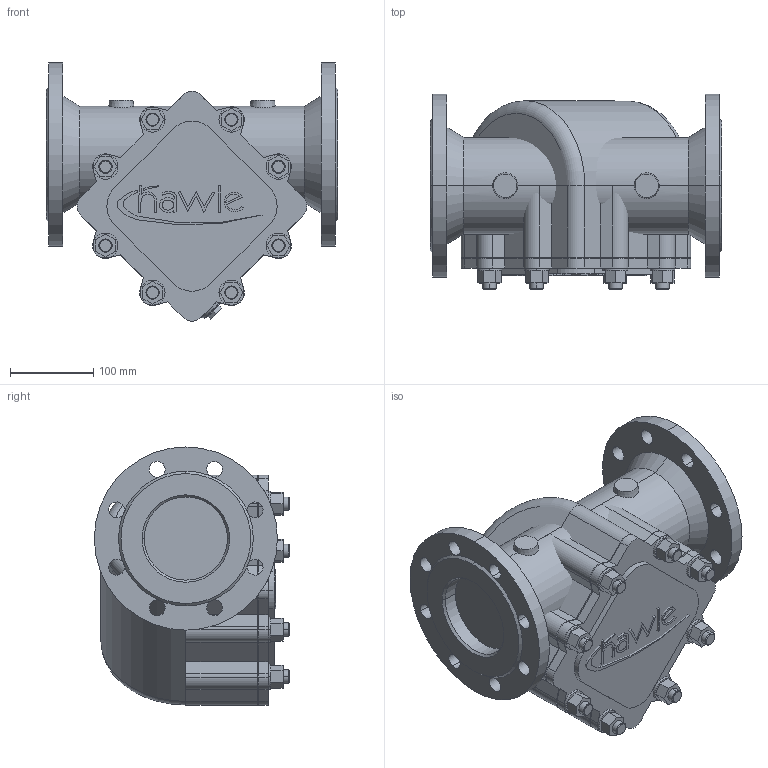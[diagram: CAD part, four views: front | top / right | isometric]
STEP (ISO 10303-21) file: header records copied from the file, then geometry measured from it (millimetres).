
FILE_DESCRIPTION(('STEP AP214'),'1');
FILE_NAME('S:/EK/USER/CAT6/3DHomepage_27-04-2012/neu_22-02-2013/9911/9911_PN16_DN100.STP','2013-02-26T13:23:56',(' '),(' '),'Spatial InterOp 3D',' ',' ');
FILE_SCHEMA(('automotive_design'));
Length unit declared in the file: millimetre
Products named in the file (57): 3D-Objekt
Bounding box: 350 x 234.7 x 309.98 mm (x, y, z)
Volume: 14884404.3 mm3; surface area: 1161776.6 mm2
Topology: 57 solids, 57 shells, 475 faces, 1078 edges, 718 vertices
Faces by surface type: plane 270, cylinder 167, cone 34, torus 4
Entity records: 18745 total; most frequent: DIRECTION 2546, CARTESIAN_POINT 2462, ORIENTED_EDGE 2156, EDGE_CURVE 1078, AXIS2_PLACEMENT_3D 942, VERTEX_POINT 718, LINE 662, VECTOR 662
